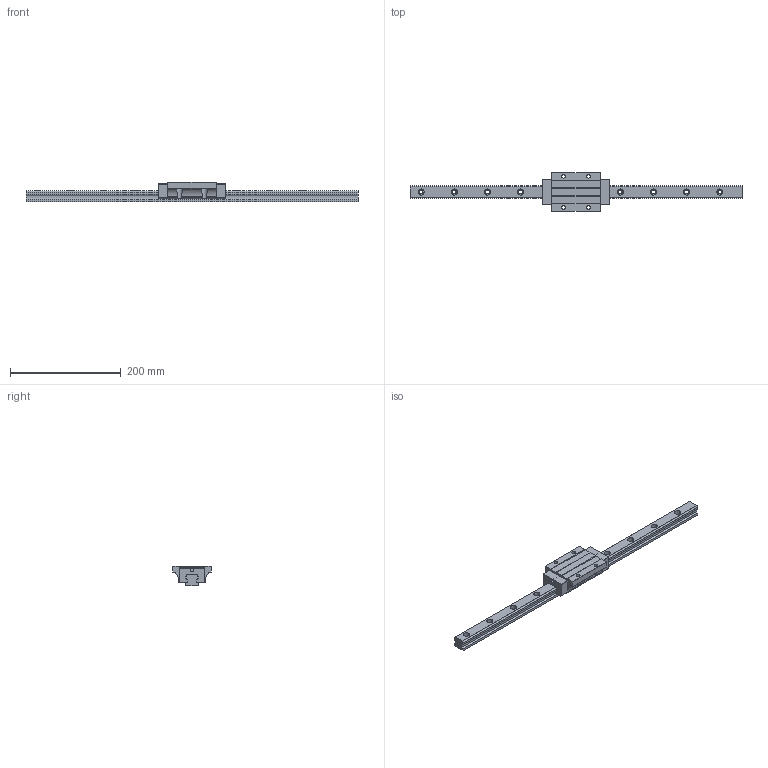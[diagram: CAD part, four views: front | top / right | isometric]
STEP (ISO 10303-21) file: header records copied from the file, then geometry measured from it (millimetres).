
FILE_DESCRIPTION (( 'STEP AP203' ), '1' );
FILE_NAME ('TRH25FE-WW.STEP', '2024-05-08T01:06:09', ( '' ), ( '' ), 'SwSTEP 2.0', 'SolidWorks 2022', '' );
FILE_SCHEMA (( 'CONFIG_CONTROL_DESIGN' ));
Length unit declared in the file: millimetre
Products named in the file (1): TRH25FE-WW
Bounding box: 600 x 70 x 36 mm (x, y, z)
Volume: 385078.1 mm3; surface area: 88758.1 mm2
Topology: 2 solids, 2 shells, 218 faces, 598 edges, 392 vertices
Faces by surface type: cylinder 122, plane 92, sphere 4
Entity records: 7554 total; most frequent: CARTESIAN_POINT 1768, DIRECTION 1210, ORIENTED_EDGE 1188, EDGE_CURVE 594, AXIS2_PLACEMENT_3D 431, VERTEX_POINT 392, VECTOR 348, LINE 348
